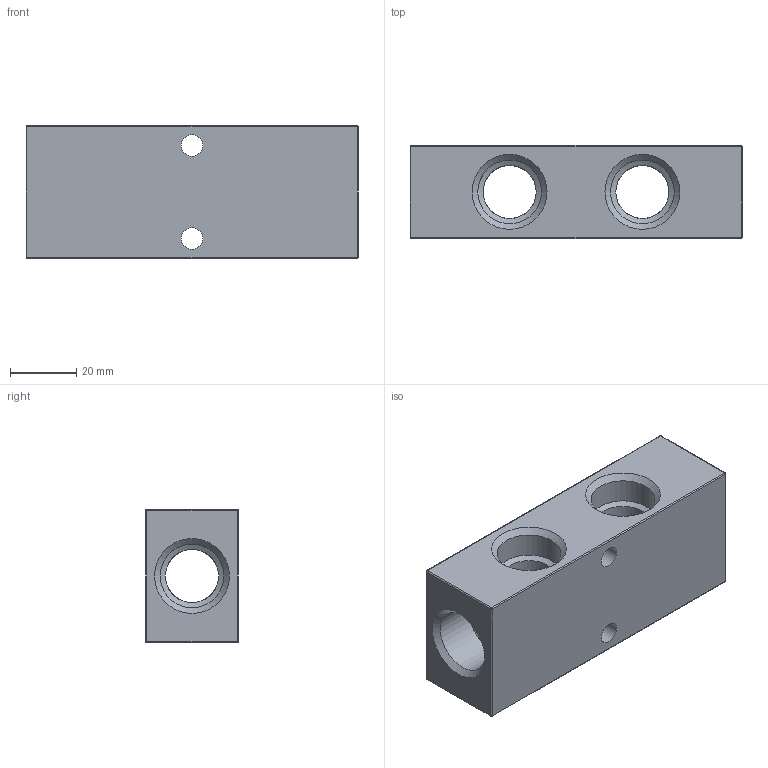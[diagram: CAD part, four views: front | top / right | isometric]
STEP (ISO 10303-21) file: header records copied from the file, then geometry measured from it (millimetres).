
FILE_DESCRIPTION(/* description */ (''),/* implementation_level */ '2;1');
FILE_NAME(/* name */ 'S:\_Tecnico\ArchivioUT\_Disegni3D ingombri\DISEGNI 3D per ingombri\RL\RL52121222.stp',/* time_stamp */ '2020-02-20T11:30:00+01:00',/* author */ ('UfficioTecnico'),/* organization */ (''),/* preprocessor_version */ 'ST-DEVELOPER v18',/* originating_system */ 'Autodesk Inventor 2020',/* authorisation */ '');
FILE_SCHEMA (('AUTOMOTIVE_DESIGN { 1 0 10303 214 3 1 1 }'));
Length unit declared in the file: millimetre
Products named in the file (1): RL51121202
Bounding box: 100 x 28 x 40 mm (x, y, z)
Volume: 72960.2 mm3; surface area: 22668.3 mm2
Topology: 1 solids, 1 shells, 53 faces, 127 edges, 72 vertices
Faces by surface type: cylinder 27, cone 12, sphere 8, plane 6
Full cylindrical faces by diameter (mm): 6.5 x2, 16 x7, 19.172 x6
Entity records: 1602 total; most frequent: DIRECTION 311, ORIENTED_EDGE 254, CARTESIAN_POINT 253, AXIS2_PLACEMENT_3D 130, EDGE_CURVE 127, VERTEX_POINT 72, CIRCLE 64, EDGE_LOOP 63
